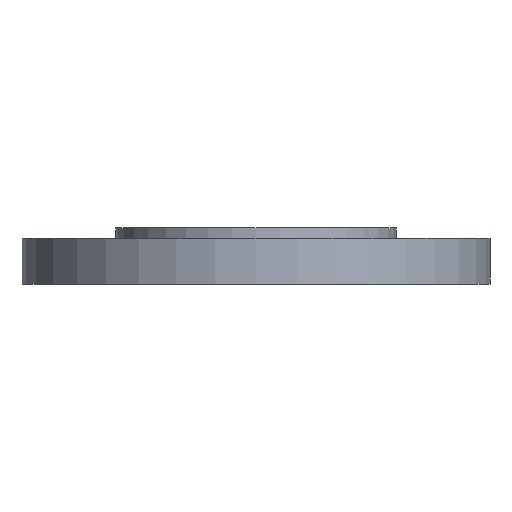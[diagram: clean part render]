
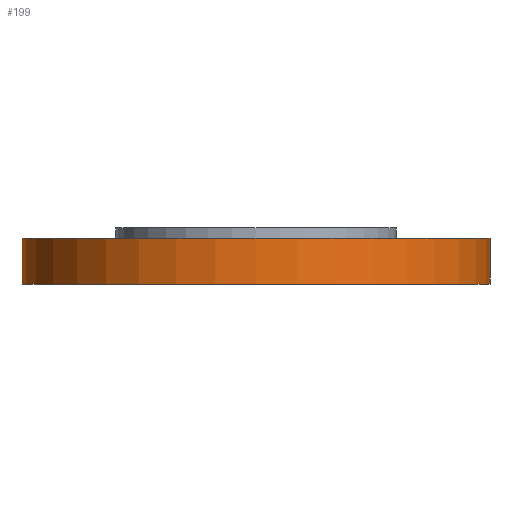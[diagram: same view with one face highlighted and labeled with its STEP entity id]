
A CAD part, front view. The second image highlights one B-rep face of the part: STEP entity #199.
In plain terms, the highlighted cylindrical face has radius 100 mm (diameter 200 mm), a partial arc.
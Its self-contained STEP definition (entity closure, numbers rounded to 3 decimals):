
#33 = CIRCLE ( 'NONE', #34, 100. ) ;
#34 = AXIS2_PLACEMENT_3D ( 'NONE', #281, #279, #277 ) ;
#75 = AXIS2_PLACEMENT_3D ( 'NONE', #707, #708, #709 ) ;
#79 = ORIENTED_EDGE ( 'NONE', *, *, #569, .T. ) ;
#80 = ORIENTED_EDGE ( 'NONE', *, *, #293, .T. ) ;
#96 = EDGE_CURVE ( 'NONE', #689, #686, #485, .T. ) ;
#121 = CARTESIAN_POINT ( 'NONE',  ( -100., 0., -4.5 ) ) ;
#181 = CARTESIAN_POINT ( 'NONE',  ( 100., 0., -4.5 ) ) ;
#199 = ADVANCED_FACE ( 'NONE', ( #437 ), #440, .T. ) ;
#215 = CARTESIAN_POINT ( 'NONE',  ( 100., 0., -24. ) ) ;
#216 = CARTESIAN_POINT ( 'NONE',  ( -100., 0., -24. ) ) ;
#277 = DIRECTION ( 'NONE',  ( -1., 0., 0. ) ) ;
#279 = DIRECTION ( 'NONE',  ( 0., 0., -1. ) ) ;
#281 = CARTESIAN_POINT ( 'NONE',  ( 0., 0., -4.5 ) ) ;
#293 = EDGE_CURVE ( 'NONE', #689, #752, #441, .T. ) ;
#372 = DIRECTION ( 'NONE',  ( 0., 0., 1. ) ) ;
#373 = CARTESIAN_POINT ( 'NONE',  ( -100., 0., -68. ) ) ;
#374 = LINE ( 'NONE', #373, #514 ) ;
#424 = DIRECTION ( 'NONE',  ( 0., 0., 1. ) ) ;
#431 = DIRECTION ( 'NONE',  ( 1., 0., 0. ) ) ;
#434 = CARTESIAN_POINT ( 'NONE',  ( 0., 0., -68. ) ) ;
#437 = FACE_OUTER_BOUND ( 'NONE', #800, .T. ) ;
#438 = DIRECTION ( 'NONE',  ( 0., 0., 1. ) ) ;
#440 = CYLINDRICAL_SURFACE ( 'NONE', #519, 100. ) ;
#441 = LINE ( 'NONE', #444, #491 ) ;
#444 = CARTESIAN_POINT ( 'NONE',  ( 100., 0., -68. ) ) ;
#475 = EDGE_CURVE ( 'NONE', #686, #955, #374, .T. ) ;
#485 = CIRCLE ( 'NONE', #75, 100. ) ;
#491 = VECTOR ( 'NONE', #424, 1000. ) ;
#514 = VECTOR ( 'NONE', #372, 1000. ) ;
#519 = AXIS2_PLACEMENT_3D ( 'NONE', #434, #438, #431 ) ;
#569 = EDGE_CURVE ( 'NONE', #752, #955, #33, .T. ) ;
#686 = VERTEX_POINT ( 'NONE', #216 ) ;
#689 = VERTEX_POINT ( 'NONE', #215 ) ;
#707 = CARTESIAN_POINT ( 'NONE',  ( 0., 0., -24. ) ) ;
#708 = DIRECTION ( 'NONE',  ( 0., 0., -1. ) ) ;
#709 = DIRECTION ( 'NONE',  ( -1., 0., 0. ) ) ;
#752 = VERTEX_POINT ( 'NONE', #181 ) ;
#800 = EDGE_LOOP ( 'NONE', ( #832, #833, #80, #79 ) ) ;
#832 = ORIENTED_EDGE ( 'NONE', *, *, #475, .F. ) ;
#833 = ORIENTED_EDGE ( 'NONE', *, *, #96, .F. ) ;
#955 = VERTEX_POINT ( 'NONE', #121 ) ;
